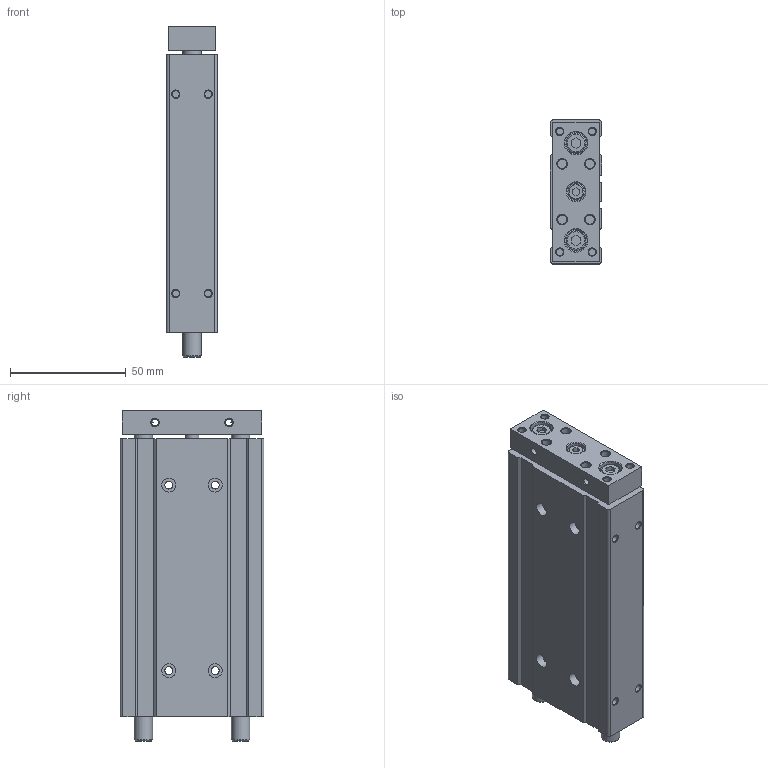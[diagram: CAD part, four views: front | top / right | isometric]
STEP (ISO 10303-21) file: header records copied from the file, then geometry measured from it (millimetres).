
FILE_DESCRIPTION((''),'2;1');
FILE_NAME('I:\3D電子目錄\氣缸\TB(U)\TB(U)10\TB(U)10\TB(U)10x75.stp','2007-08-06T08:09:10',('Administrator'),(''),'Autodesk Inventor 2008','Autodesk Inventor 2008','');
FILE_SCHEMA(('AUTOMOTIVE_DESIGN { 1 0 10303 214 1 1 1 1 }'));
Length unit declared in the file: millimetre
Products named in the file (1): TB(U)10X75
Bounding box: 22 x 62 x 142.4 mm (x, y, z)
Volume: 163671.3 mm3; surface area: 34241.3 mm2
Topology: 1 solids, 1 shells, 190 faces, 434 edges, 276 vertices
Faces by surface type: plane 90, cylinder 52, cone 37, bspline 8, torus 3
Full cylindrical faces by diameter (mm): 3 x10, 3.4 x4, 4 x8, 5 x2, 6 x5, 7 x1, 8 x5, 8.5 x2, 9.5 x2, 11 x1, 15 x2
Entity records: 5230 total; most frequent: CARTESIAN_POINT 1149, DIRECTION 850, ORIENTED_EDGE 680, EDGE_LOOP 342, EDGE_CURVE 340, AXIS2_PLACEMENT_3D 337, VERTEX_POINT 268, FACE_OUTER_BOUND 190
